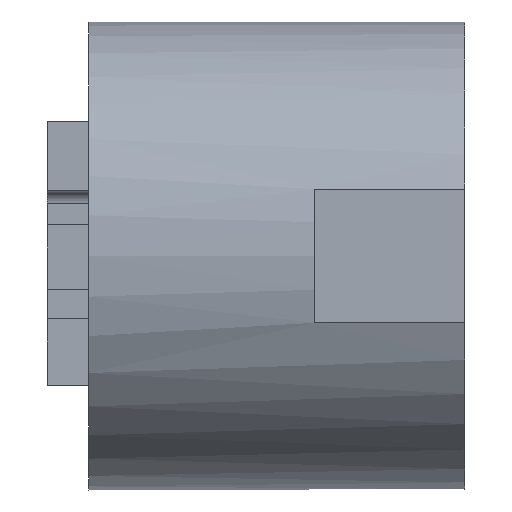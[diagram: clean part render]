
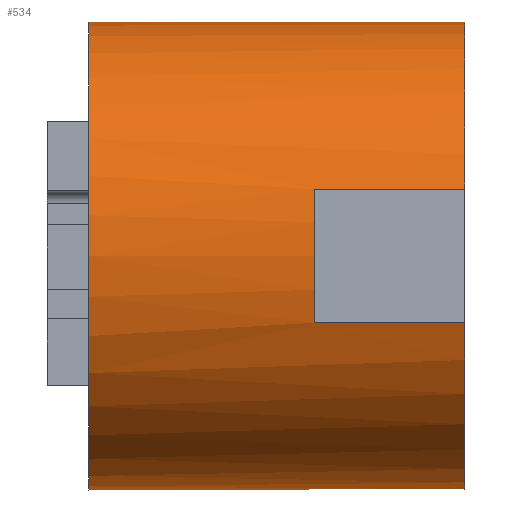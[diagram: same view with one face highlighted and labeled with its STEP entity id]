
A CAD part, front view. The second image highlights one B-rep face of the part: STEP entity #534.
In plain terms, the highlighted cylindrical face has radius 2.8 mm (diameter 5.6 mm), a full revolution.
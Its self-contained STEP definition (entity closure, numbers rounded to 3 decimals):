
#20=CYLINDRICAL_SURFACE('',#567,2.8);
#74=LINE('',#860,#135);
#75=LINE('',#863,#136);
#76=LINE('',#865,#137);
#77=LINE('',#868,#138);
#78=LINE('',#871,#139);
#135=VECTOR('',#659,10.);
#136=VECTOR('',#662,10.);
#137=VECTOR('',#663,10.);
#138=VECTOR('',#666,2.8);
#139=VECTOR('',#669,10.);
#169=FACE_OUTER_BOUND('',#200,.T.);
#200=EDGE_LOOP('',(#420,#421,#422,#423,#424,#425,#426,#427,#428,#429,#430,
#431));
#216=CIRCLE('',#554,2.8);
#217=CIRCLE('',#564,2.8);
#218=CIRCLE('',#566,2.8);
#219=CIRCLE('',#568,2.8);
#220=CIRCLE('',#569,2.8);
#221=CIRCLE('',#570,2.8);
#222=VERTEX_POINT('',#717);
#255=VERTEX_POINT('',#841);
#256=VERTEX_POINT('',#842);
#259=VERTEX_POINT('',#850);
#260=VERTEX_POINT('',#851);
#263=VERTEX_POINT('',#859);
#264=VERTEX_POINT('',#861);
#265=VERTEX_POINT('',#864);
#266=VERTEX_POINT('',#866);
#267=VERTEX_POINT('',#869);
#272=EDGE_CURVE('',#222,#222,#216,.T.);
#315=EDGE_CURVE('',#255,#256,#217,.T.);
#319=EDGE_CURVE('',#259,#260,#218,.T.);
#323=EDGE_CURVE('',#256,#263,#74,.T.);
#324=EDGE_CURVE('',#264,#263,#219,.T.);
#325=EDGE_CURVE('',#259,#264,#75,.T.);
#326=EDGE_CURVE('',#260,#265,#76,.T.);
#327=EDGE_CURVE('',#266,#265,#220,.T.);
#328=EDGE_CURVE('',#266,#222,#77,.T.);
#329=EDGE_CURVE('',#267,#266,#221,.T.);
#330=EDGE_CURVE('',#255,#267,#78,.T.);
#420=ORIENTED_EDGE('',*,*,#323,.T.);
#421=ORIENTED_EDGE('',*,*,#324,.F.);
#422=ORIENTED_EDGE('',*,*,#325,.F.);
#423=ORIENTED_EDGE('',*,*,#319,.T.);
#424=ORIENTED_EDGE('',*,*,#326,.T.);
#425=ORIENTED_EDGE('',*,*,#327,.F.);
#426=ORIENTED_EDGE('',*,*,#328,.T.);
#427=ORIENTED_EDGE('',*,*,#272,.F.);
#428=ORIENTED_EDGE('',*,*,#328,.F.);
#429=ORIENTED_EDGE('',*,*,#329,.F.);
#430=ORIENTED_EDGE('',*,*,#330,.F.);
#431=ORIENTED_EDGE('',*,*,#315,.T.);
#534=ADVANCED_FACE('',(#169),#20,.T.);
#554=AXIS2_PLACEMENT_3D('',#718,#591,#592);
#564=AXIS2_PLACEMENT_3D('',#843,#645,#646);
#566=AXIS2_PLACEMENT_3D('',#852,#652,#653);
#567=AXIS2_PLACEMENT_3D('',#858,#657,#658);
#568=AXIS2_PLACEMENT_3D('',#862,#660,#661);
#569=AXIS2_PLACEMENT_3D('',#867,#664,#665);
#570=AXIS2_PLACEMENT_3D('',#870,#667,#668);
#591=DIRECTION('center_axis',(-1.,0.,0.));
#592=DIRECTION('ref_axis',(0.,0.,-1.));
#645=DIRECTION('center_axis',(-1.,0.,0.));
#646=DIRECTION('ref_axis',(0.,0.,-1.));
#652=DIRECTION('center_axis',(-1.,0.,0.));
#653=DIRECTION('ref_axis',(0.,0.,-1.));
#657=DIRECTION('center_axis',(1.,0.,0.));
#658=DIRECTION('ref_axis',(0.,0.,-1.));
#659=DIRECTION('',(1.,0.,0.));
#660=DIRECTION('center_axis',(1.,0.,0.));
#661=DIRECTION('ref_axis',(0.,0.,-1.));
#662=DIRECTION('',(1.,0.,0.));
#663=DIRECTION('',(1.,0.,0.));
#664=DIRECTION('center_axis',(1.,0.,0.));
#665=DIRECTION('ref_axis',(0.,0.,-1.));
#666=DIRECTION('',(-1.,0.,0.));
#667=DIRECTION('center_axis',(1.,0.,0.));
#668=DIRECTION('ref_axis',(0.,0.,-1.));
#669=DIRECTION('',(1.,0.,0.));
#717=CARTESIAN_POINT('',(-115.2,1.7,40.394));
#718=CARTESIAN_POINT('Origin',(-115.2,1.7,37.594));
#841=CARTESIAN_POINT('',(-112.5,4.383,38.394));
#842=CARTESIAN_POINT('',(-112.5,4.383,36.794));
#843=CARTESIAN_POINT('Origin',(-112.5,1.7,37.594));
#850=CARTESIAN_POINT('',(-112.5,-0.983,36.794));
#851=CARTESIAN_POINT('',(-112.5,-0.983,38.394));
#852=CARTESIAN_POINT('Origin',(-112.5,1.7,37.594));
#858=CARTESIAN_POINT('Origin',(-111.,1.7,37.594));
#859=CARTESIAN_POINT('',(-110.7,4.383,36.794));
#860=CARTESIAN_POINT('',(-111.,4.383,36.794));
#861=CARTESIAN_POINT('',(-110.7,-0.983,36.794));
#862=CARTESIAN_POINT('Origin',(-110.7,1.7,37.594));
#863=CARTESIAN_POINT('',(-111.,-0.983,36.794));
#864=CARTESIAN_POINT('',(-110.7,-0.983,38.394));
#865=CARTESIAN_POINT('',(-111.,-0.983,38.394));
#866=CARTESIAN_POINT('',(-110.7,1.7,40.394));
#867=CARTESIAN_POINT('Origin',(-110.7,1.7,37.594));
#868=CARTESIAN_POINT('',(-111.,1.7,40.394));
#869=CARTESIAN_POINT('',(-110.7,4.383,38.394));
#870=CARTESIAN_POINT('Origin',(-110.7,1.7,37.594));
#871=CARTESIAN_POINT('',(-111.,4.383,38.394));
